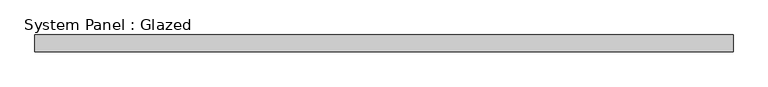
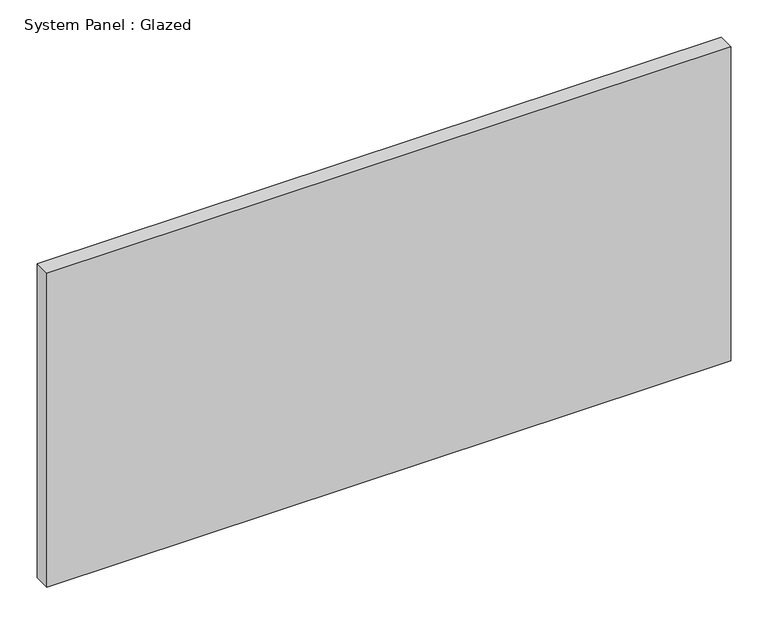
"""IFC4 building model written with IfcOpenShell, lengths in millimetres: plate geometry, System Panel : Glazed."""

from ifc_helpers import new_model, si_unit, origin, origin_with_axes, place, context, project, spatial, polyline, outline, extrude, source, transform, mapped, element, save


def system_panel_glazed_f9e50f4f(model_context):
    return source(origin(), model_context, "Body", "SweptSolid", [
        extrude(outline(polyline([(529.544643, 19.05), (-529.544643, 19.05), (-529.544643, 44.45), (529.544643, 44.45), (529.544643, 19.05)])), origin_with_axes(), (0.0, 0.0, 1.0), 514.35),
    ])


if __name__ == "__main__":
    model = new_model("IFC4")
    model_context = context("Model", 3, world=origin())
    ifc_project = project(units=[si_unit("LENGTHUNIT", "METRE", prefix="MILLI")], contexts=[model_context])
    site = spatial("IfcSite", under=ifc_project)
    building = spatial("IfcBuilding", under=site)
    placement = place(None, origin())
    system_panel_glazed_shape = system_panel_glazed_f9e50f4f(model_context)
    element("IfcPlate", 1, ObjectType="System Panel : Glazed", at=placement, inside=building, context=model_context, shape_type="MappedRepresentation", body=[
        mapped(system_panel_glazed_shape, transform((0.0, 0.0, 0.0), x_axis=(1.0, 0.0, 0.0), y_axis=(0.0, 1.0, 0.0), z_axis=(0.0, 0.0, 1.0))),
    ])
    save(model, "model.ifc")
